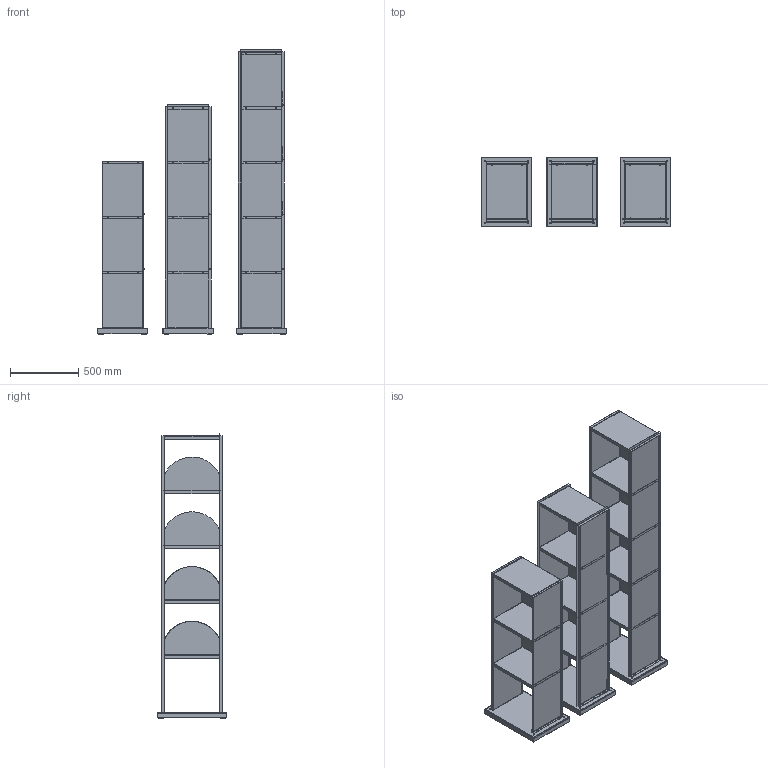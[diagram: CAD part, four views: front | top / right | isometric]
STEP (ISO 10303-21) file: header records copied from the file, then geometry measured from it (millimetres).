
FILE_DESCRIPTION(/* description */ (''),/* implementation_level */ '2;1');
FILE_NAME(/* name */ 'Floreana',/* time_stamp */ '2025-07-10T12:13:53+02:00',/* author */ (''),/* organization */ (''),/* preprocessor_version */ 'ST-DEVELOPER v16.5',/* originating_system */ 'Rhino 7.37',/* authorisation */ '');
FILE_SCHEMA (('AUTOMOTIVE_DESIGN'));
Products named in the file (43): Document; DPC1150B09_--FLOREANA 160 NERO; WDP6000_--FLOREANA ASSIEME BASE_NX-ARRAGMNTArrangement 1; WDC6011_--FLOREANA BASE FRESATA GRZ; Y104004554_--FLOREANA DISTANZIALE PIEDE; DS7010PD_--OVIDIO-PIEDINO A VITE; Y102016401_--FLOREANA COPRIBASE; Y502007152_--FLOREANA ETICHETTA TARGA; WDP6002_--FLOREANA STRUTTURA H160; Y102016416_--FLOREANA SPALLA SX MEDIA; Blocco 03; X301000309_--PERNO ELETTR. M4x6 RAMATO; X314000210_--PRIGIONIERO VITE M6X12 RAMATO; X303600020_--DADO FLANGIATO M4 ZINC; X314000493_A-VITE TB EI M4X8 C_FLANGIA ZN; Y102016432_--FLOREANA SPALLA DX MEDIA; Blocco 04; Y102016398_--FLOREANA MENSOLA; Blocco 01; Y102016399_--FLOREANA TAPPO SUPERIORE; Blocco 02; X303000007_--DADO M6 ZB; DPC1150C09_--FLOREANA 210 NERO; WDP6000_--FLOREANA ASSIEME BASE_NX-ARRAGMNTArrangement 1 01; WDC6011_--FLOREANA BASE FRESATA GRZ 01; Y104004554_--FLOREANA DISTANZIALE PIEDE 01; DS7010PD_--OVIDIO-PIEDINO A VITE 01; Y102016401_--FLOREANA COPRIBASE 01; Y502007152_--FLOREANA ETICHETTA TARGA 01; 083905_--FLOREANA H210 CORPO ASSEMBLATO; Y102016406_--FLOREANA SPALLA SX ALTA; Blocco 03 01; Blocco 04 01; X301000309_--PERNO ELETTR. M4x6 RAMATO 01; X314000210_--PRIGIONIERO VITE M6X12 RAMATO 01; Y102016399_--FLOREANA TAPPO SUPERIORE 01; Blocco 02 01; Y102016398_--FLOREANA MENSOLA 01; Blocco 01 01; Y102016413_--FLOREANA SPALLA DX ALTA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
Assembly tree (168 placements, depth 5):
  Document
    DPC1150B09_--FLOREANA 160 NERO
      WDP6000_--FLOREANA ASSIEME BASE_NX-ARRAGMNTArrangement 1
        WDC6011_--FLOREANA BASE FRESATA GRZ
        Y104004554_--FLOREANA DISTANZIALE PIEDE  x4
        DS7010PD_--OVIDIO-PIEDINO A VITE  x4
        Y102016401_--FLOREANA COPRIBASE
        Y502007152_--FLOREANA ETICHETTA TARGA
      WDP6002_--FLOREANA STRUTTURA H160
        Y102016416_--FLOREANA SPALLA SX MEDIA
          Blocco 03
          X301000309_--PERNO ELETTR. M4x6 RAMATO  x8
          X314000210_--PRIGIONIERO VITE M6X12 RAMATO  x3
        X303600020_--DADO FLANGIATO M4 ZINC  x22
        X314000493_A-VITE TB EI M4X8 C_FLANGIA ZN  x6
        Y102016432_--FLOREANA SPALLA DX MEDIA
          Blocco 04
          X301000309_--PERNO ELETTR. M4x6 RAMATO  x8
          X314000210_--PRIGIONIERO VITE M6X12 RAMATO  x3
        Y102016398_--FLOREANA MENSOLA  x3
          Blocco 01
        Y102016399_--FLOREANA TAPPO SUPERIORE
          Blocco 02
      X303000007_--DADO M6 ZB  x6
    DPC1150C09_--FLOREANA 210 NERO
      WDP6000_--FLOREANA ASSIEME BASE_NX-ARRAGMNTArrangement 1 01
        WDC6011_--FLOREANA BASE FRESATA GRZ 01
        Y104004554_--FLOREANA DISTANZIALE PIEDE 01  x4
        DS7010PD_--OVIDIO-PIEDINO A VITE 01  x4
        Y102016401_--FLOREANA COPRIBASE 01
        Y502007152_--FLOREANA ETICHETTA TARGA 01
      083905_--FLOREANA H210 CORPO ASSEMBLATO
        Y102016406_--FLOREANA SPALLA SX ALTA
          Blocco 03 01
          Blocco 04 01
          X301000309_--PERNO ELETTR. M4x6 RAMATO 01  x10
          X314000210_--PRIGIONIERO VITE M6X12 RAMATO 01  x3
        Y102016399_--FLOREANA TAPPO SUPERIORE 01
          Blocco 02 01
        Y102016398_--FLOREANA MENSOLA 01  x4
          Blocco 01 01
        Y102016413_--FLOREANA SPALLA DX ALTA
          Blocco 05
          X301000309_--PERNO ELETTR. M4x6 RAMATO 01  x10
          X314000210_--PRIGIONIERO VITE M6X12 RAMATO 01  x3
        X303600020_--DADO FLANGIATO M4 ZINC 01  x28
        X314000493_A-VITE TB EI M4X8 C_FLANGIA ZN 01  x8
Bounding box: 1379.96 x 507 x 2083.85 mm (x, y, z)
Volume: 3765605 mm3; surface area: 19484079.3 mm2
Topology: 182 solids, 3999 shells, 9468 faces, 26471 edges, 20131 vertices
Faces by surface type: bspline 3922, plane 2963, cylinder 2583
Entity records: 302404 total; most frequent: CARTESIAN_POINT 155812, ORIENTED_EDGE 21406, EDGE_CURVE 17552, VERTEX_POINT 14930, B_SPLINE_CURVE_WITH_KNOTS 13044, EDGE_LOOP 6004, ADVANCED_FACE 5550, FACE_OUTER_BOUND 5550
